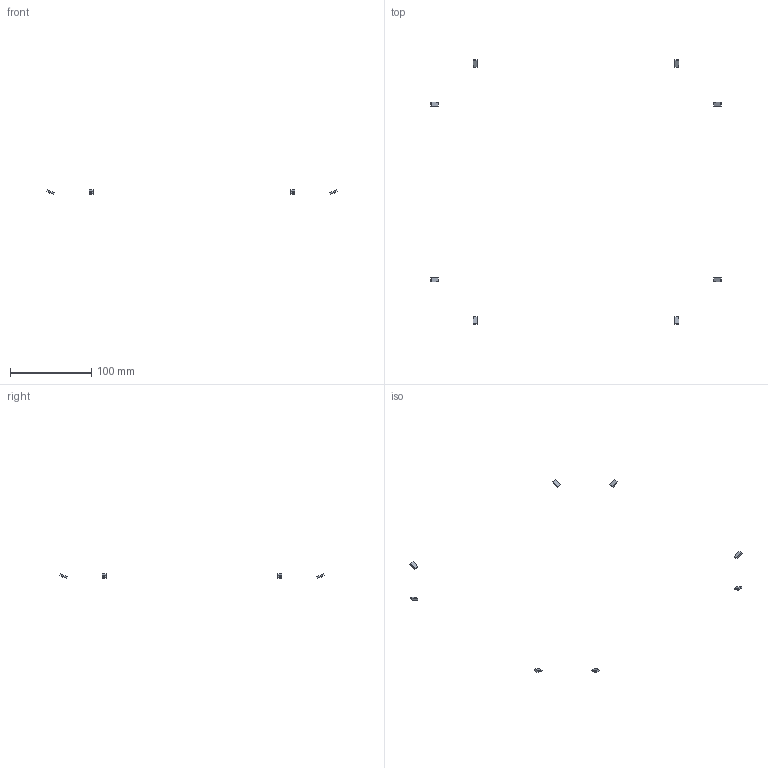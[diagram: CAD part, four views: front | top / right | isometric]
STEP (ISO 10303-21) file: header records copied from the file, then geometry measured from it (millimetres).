
FILE_DESCRIPTION(('Open CASCADE Model'),'2;1');
FILE_NAME('Open CASCADE Shape Model','2026-10-21T19:16:13',('Author'),( 'Open CASCADE'),'Open CASCADE STEP processor 8.0','build123d', 'Unknown');
FILE_SCHEMA(('AUTOMOTIVE_DESIGN { 1 0 10303 214 1 1 1 1 }'));
Length unit declared in the file: millimetre
Products named in the file (17): COMPOUND; SOLID
Assembly tree (16 placements, depth 2):
  COMPOUND
    SOLID
    SOLID
    SOLID
    SOLID
    SOLID
    SOLID
    SOLID
    SOLID
    SOLID
    SOLID
    SOLID
    SOLID
    SOLID
    SOLID
    SOLID
    SOLID
Bounding box: 357.51 x 325.51 x 5.65 mm (x, y, z)
Volume: 724 mm3; surface area: 1302.2 mm2
Topology: 16 solids, 16 shells, 96 faces, 192 edges, 128 vertices
Faces by surface type: plane 96
Entity records: 5008 total; most frequent: CARTESIAN_POINT 1009, DIRECTION 610, ORIENTED_EDGE 384, LINE 384, VECTOR 384, PCURVE 384, DEFINITIONAL_REPRESENTATION 384, EDGE_CURVE 192
